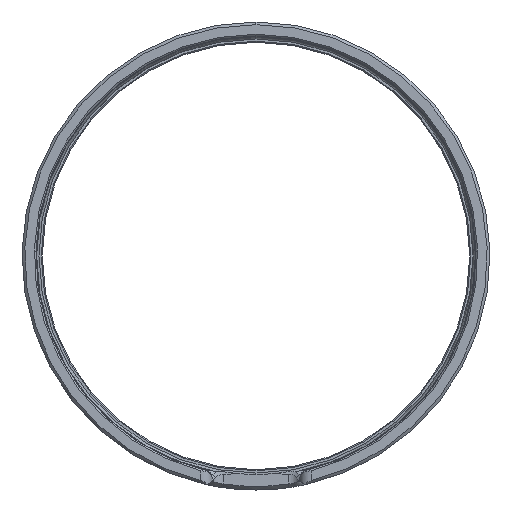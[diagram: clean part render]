
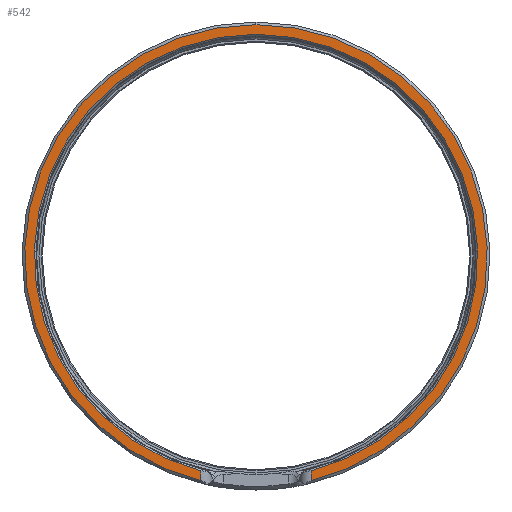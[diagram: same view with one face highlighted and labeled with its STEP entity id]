
A CAD part, left-side view. The second image highlights one B-rep face of the part: STEP entity #542.
In plain terms, the highlighted planar face has unit normal (-1, 0, 0).
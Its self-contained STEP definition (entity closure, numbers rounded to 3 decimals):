
#12 = DIRECTION ( 'NONE',  ( -1., 0., 0. ) ) ;
#103 = CARTESIAN_POINT ( 'NONE',  ( -400., 0., 0. ) ) ;
#204 = VECTOR ( 'NONE', #5453, 1000. ) ;
#282 = VERTEX_POINT ( 'NONE', #4652 ) ;
#417 = EDGE_CURVE ( 'NONE', #1114, #5622, #4144, .T. ) ;
#542 = ADVANCED_FACE ( 'NONE', ( #2512 ), #3514, .T. ) ;
#575 = DIRECTION ( 'NONE',  ( 0., 0., 1. ) ) ;
#651 = EDGE_CURVE ( 'NONE', #4337, #2943, #1623, .T. ) ;
#730 = EDGE_CURVE ( 'NONE', #5622, #282, #4898, .T. ) ;
#895 = CIRCLE ( 'NONE', #3019, 42.75 ) ;
#1046 = VECTOR ( 'NONE', #575, 1000. ) ;
#1114 = VERTEX_POINT ( 'NONE', #2142 ) ;
#1607 = ORIENTED_EDGE ( 'NONE', *, *, #651, .T. ) ;
#1623 = CIRCLE ( 'NONE', #1812, 42.75 ) ;
#1812 = AXIS2_PLACEMENT_3D ( 'NONE', #5001, #5456, #4466 ) ;
#2132 = CARTESIAN_POINT ( 'NONE',  ( -400., 10.2, -43.25 ) ) ;
#2138 = ORIENTED_EDGE ( 'NONE', *, *, #4602, .T. ) ;
#2142 = CARTESIAN_POINT ( 'NONE',  ( -400., -10.2, -41.515 ) ) ;
#2160 = LINE ( 'NONE', #2132, #204 ) ;
#2352 = ORIENTED_EDGE ( 'NONE', *, *, #3186, .T. ) ;
#2512 = FACE_OUTER_BOUND ( 'NONE', #3624, .T. ) ;
#2679 = CARTESIAN_POINT ( 'NONE',  ( -400., 0., 0. ) ) ;
#2899 = CARTESIAN_POINT ( 'NONE',  ( -400., 0., 42.75 ) ) ;
#2943 = VERTEX_POINT ( 'NONE', #4406 ) ;
#3019 = AXIS2_PLACEMENT_3D ( 'NONE', #103, #12, #4623 ) ;
#3186 = EDGE_CURVE ( 'NONE', #1114, #4337, #895, .T. ) ;
#3487 = AXIS2_PLACEMENT_3D ( 'NONE', #2679, #4523, #5908 ) ;
#3514 = PLANE ( 'NONE',  #5762 ) ;
#3624 = EDGE_LOOP ( 'NONE', ( #4760, #2352, #1607, #2138, #4677 ) ) ;
#3848 = DIRECTION ( 'NONE',  ( 0., 0., -1. ) ) ;
#4144 = LINE ( 'NONE', #5563, #1046 ) ;
#4337 = VERTEX_POINT ( 'NONE', #2899 ) ;
#4406 = CARTESIAN_POINT ( 'NONE',  ( -400., 10.2, -41.515 ) ) ;
#4466 = DIRECTION ( 'NONE',  ( 0., 0., 1. ) ) ;
#4523 = DIRECTION ( 'NONE',  ( -1., 0., 0. ) ) ;
#4602 = EDGE_CURVE ( 'NONE', #2943, #282, #2160, .T. ) ;
#4623 = DIRECTION ( 'NONE',  ( 0., 0., 1. ) ) ;
#4652 = CARTESIAN_POINT ( 'NONE',  ( -400., 10.2, -39.685 ) ) ;
#4677 = ORIENTED_EDGE ( 'NONE', *, *, #730, .F. ) ;
#4760 = ORIENTED_EDGE ( 'NONE', *, *, #417, .F. ) ;
#4898 = CIRCLE ( 'NONE', #3487, 40.975 ) ;
#5001 = CARTESIAN_POINT ( 'NONE',  ( -400., 0., 0. ) ) ;
#5349 = DIRECTION ( 'NONE',  ( -1., 0., 0. ) ) ;
#5453 = DIRECTION ( 'NONE',  ( 0., 0., 1. ) ) ;
#5456 = DIRECTION ( 'NONE',  ( -1., 0., 0. ) ) ;
#5563 = CARTESIAN_POINT ( 'NONE',  ( -400., -10.2, -43.25 ) ) ;
#5605 = CARTESIAN_POINT ( 'NONE',  ( -400., -10.2, -39.685 ) ) ;
#5622 = VERTEX_POINT ( 'NONE', #5605 ) ;
#5722 = CARTESIAN_POINT ( 'NONE',  ( -400., 0., 0. ) ) ;
#5762 = AXIS2_PLACEMENT_3D ( 'NONE', #5722, #5349, #3848 ) ;
#5908 = DIRECTION ( 'NONE',  ( 0., 0., 1. ) ) ;
